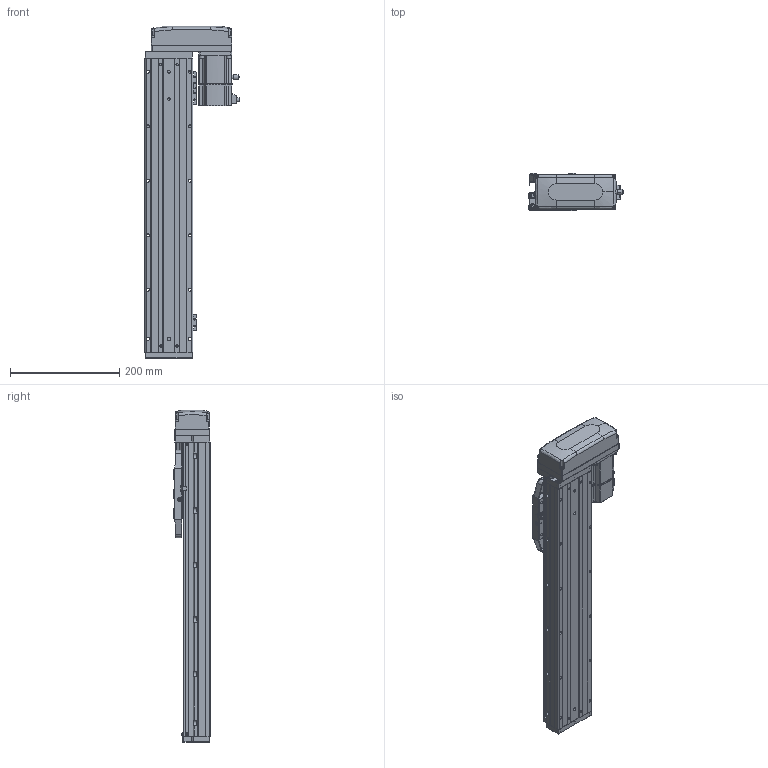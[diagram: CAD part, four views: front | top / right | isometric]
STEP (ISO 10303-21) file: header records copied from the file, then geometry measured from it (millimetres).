
FILE_DESCRIPTION (( 'STEP AP203' ), '1' );
FILE_NAME ('CTHA86-350-BL-M20-C4L.step', '2022-04-26T00:50:53', ( '微软用户' ), ( '微软中国' ), 'SwSTEP 2.0', 'SolidWorks 2020', '' );
FILE_SCHEMA (( 'CONFIG_CONTROL_DESIGN' ));
Length unit declared in the file: millimetre
Products named in the file (21): GB¨uT 70.2-M3¡Á5_M3¡Á6; GBT 70.1-M3×16; GBT 70.3-M3℅6; EE_SX911P_R; GBT 70.1-M3℅6; CTHA86-015-1_CTHA86-015-2; CTHA60-017; CTHA60-016; CTHA86-033; CTHA60-021; _X2_4E0983F1_X0_200W_1; CTHA86-350-BL-M20-C4L; KTHA86-001_540; GBT77-2000 M3×3; CTHA86-002; KTHA86-004; GBT 70.1-M3×20; CTHA86-031; KTHA86-005; GBT70.1 M5℅16; CTHA86-030
Assembly tree (66 placements, depth 2):
  CTHA86-350-BL-M20-C4L
    KTHA86-001_540
    KTHA86-004
    KTHA86-005
    GB¨uT 70.2-M3¡Á5_M3¡Á6  x10
    EE_SX911P_R  x3
    CTHA60-017  x3
    CTHA60-021  x2
    GBT77-2000 M3×3  x6
    GBT 70.1-M3×20
    GBT70.1 M5℅16  x14
    GBT 70.1-M3×16  x5
    GBT 70.1-M3℅6  x6
    CTHA60-016  x2
    _X2_4E0983F1_X0_200W_1
    CTHA86-002
    CTHA86-031
    CTHA86-030  x2
    GBT 70.3-M3℅6  x4
    CTHA86-015-1_CTHA86-015-2
    CTHA86-033
Bounding box: 172.7 x 68 x 609 mm (x, y, z)
Volume: 2662709.3 mm3; surface area: 472423.3 mm2
Topology: 68 solids, 68 shells, 2726 faces, 6484 edges, 3988 vertices
Faces by surface type: plane 1427, cylinder 705, cone 363, torus 132, bspline 75, sphere 24
Entity records: 47143 total; most frequent: CARTESIAN_POINT 9171, DIRECTION 7299, ORIENTED_EDGE 7068, EDGE_CURVE 3534, AXIS2_PLACEMENT_3D 2500, VECTOR 2299, LINE 2299, VERTEX_POINT 2220
